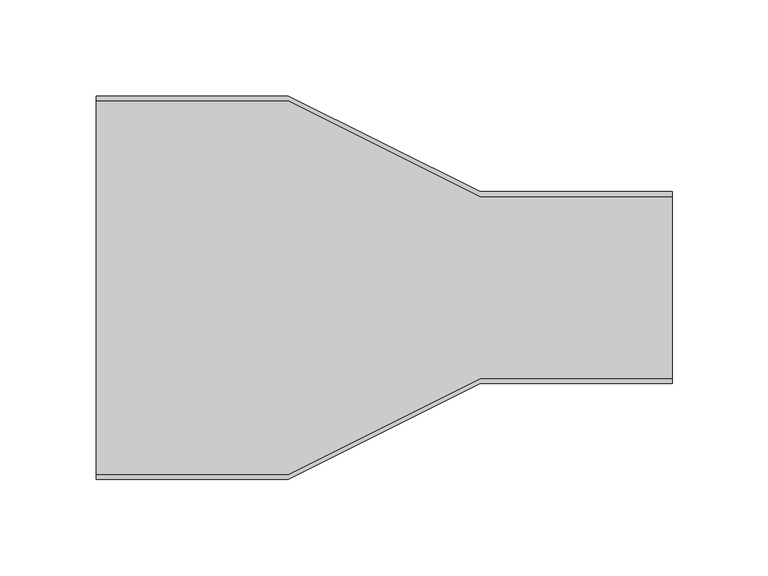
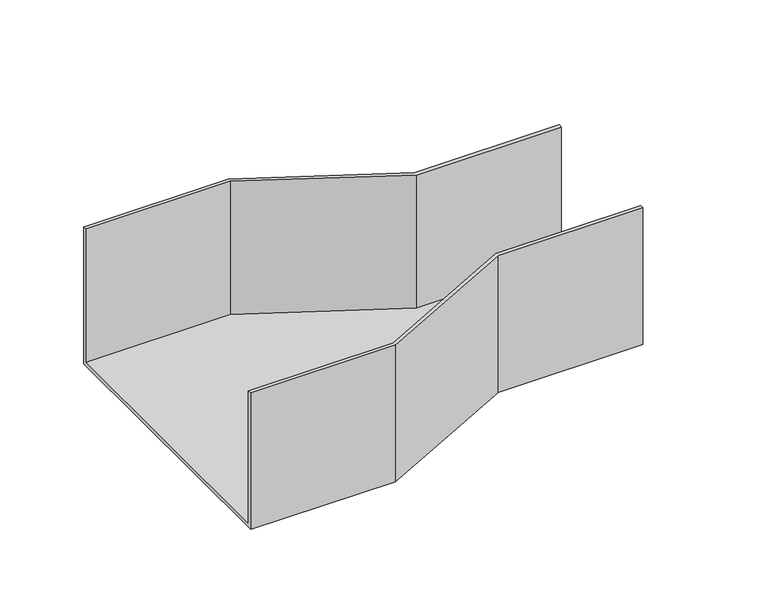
"""IFC4 building model written with IfcOpenShell, lengths in millimetres: cable carrier fitting geometry, BAKS_Reduction-symmetrical_RKZ : RKZCH100."""

import ifcopenshell
import ifcopenshell.guid

model = None  # the IFC model being written
_history = None  # IfcOwnerHistory: only IFC2X3 demands one
_inside = {}  # id of a spatial element -> (the spatial element, [elements in it])
_under = {}  # id of a project, library or spatial element -> (it, [spatial elements below it])
_declared = {}  # id of a project -> (the project, [libraries it declares])
_typed = {}  # id of a type object -> (the type object, [elements of that type])
_made_of = {}  # id of a material, layer set ... -> (it, [elements and type objects made of it])


def new_model(schema):
    """Start an empty IFC model of exactly this schema.

    Asked for "IFC4X3", IfcOpenShell would pick the latest addendum, in which some entities
    have other attributes; the version numbers below select the first issue.
    IFC2X3 requires an IfcOwnerHistory on every rooted entity: one is made here for all.
    """
    global model, _history
    if schema == "IFC4X3":
        model = ifcopenshell.file(schema_version=(4, 3, 0, 0))
    else:
        model = ifcopenshell.file(schema=schema)
    _inside.clear()
    _under.clear()
    _declared.clear()
    _typed.clear()
    _made_of.clear()
    _history = None
    if model.schema == "IFC2X3":
        org = make("IfcOrganization", Name="unknown")
        user = make(
            "IfcPersonAndOrganization",
            ThePerson=make("IfcPerson", FamilyName="unknown"),
            TheOrganization=org,
        )
        app = make(
            "IfcApplication",
            ApplicationDeveloper=org,
            Version="unknown",
            ApplicationFullName="unknown",
            ApplicationIdentifier="unknown",
        )
        _history = make(
            "IfcOwnerHistory",
            OwningUser=user,
            OwningApplication=app,
            ChangeAction="ADDED",
            CreationDate=0,
        )
    return model


def make(cls, **values):
    """One entity of the class cls with the attributes given. An attribute that is None is left unset."""
    return model.create_entity(
        cls, **{name: value for name, value in values.items() if value is not None}
    )


def rooted(cls, **values):
    """An entity with a GlobalId (a new one), such as an element, a storey or a relation."""
    return make(cls, GlobalId=ifcopenshell.guid.new(), OwnerHistory=_history, **values)


def si_unit(unit_type, name, prefix=None):
    """IfcSIUnit, for example si_unit("LENGTHUNIT", "METRE", prefix="MILLI")."""
    return make("IfcSIUnit", UnitType=unit_type, Prefix=prefix, Name=name)


def assignment(units):
    """IfcUnitAssignment: the units of a project."""
    return None if units is None else make("IfcUnitAssignment", Units=units)


def point(xyz):
    """IfcCartesianPoint."""
    return None if xyz is None else make("IfcCartesianPoint", Coordinates=xyz)


def direction(xyz):
    """IfcDirection."""
    return None if xyz is None else make("IfcDirection", DirectionRatios=xyz)


def frame(location, z_axis=None, x_axis=None):
    """IfcAxis2Placement3D, a coordinate frame: its origin and axes. An axis left out is left unset."""
    return make(
        "IfcAxis2Placement3D",
        Location=point(location),
        Axis=direction(z_axis),
        RefDirection=direction(x_axis),
    )


def origin():
    """The frame at (0, 0, 0) with its axes left unset."""
    return frame((0.0, 0.0, 0.0))


def place(relative_to, where):
    """IfcLocalPlacement: puts the frame where relative to a parent placement (None: the world)."""
    return make(
        "IfcLocalPlacement", PlacementRelTo=relative_to, RelativePlacement=where
    )


def context(
    kind, dimensions, precision=None, world=None, true_north=None, identifier=None
):
    """IfcGeometricRepresentationContext, for example the 3D "Model" context."""
    return make(
        "IfcGeometricRepresentationContext",
        ContextIdentifier=identifier,
        ContextType=kind,
        CoordinateSpaceDimension=dimensions,
        Precision=precision,
        WorldCoordinateSystem=world,
        TrueNorth=true_north,
    )


def project(units=None, contexts=None):
    """IfcProject with its units and contexts."""
    return rooted(
        "IfcProject",
        Name="project",
        RepresentationContexts=contexts,
        UnitsInContext=assignment(units),
    )


def spatial(cls, under=None, at=None, **own):
    """A site, building, storey or space (cls), placed at a placement, below another one or the project."""
    s = rooted(cls, ObjectPlacement=at, **own)
    if under is not None:
        _under.setdefault(under.id(), (under, []))[1].append(s)
    return s


def faces_of(points, faces, orient=None, outer=None):
    """IfcFace entities. A face is a list of loops; a loop is a list of indices into points, from 0.

    orient and outer hold one flag for each loop. By default every Orientation is true, the
    first loop of a face is its IfcFaceOuterBound and the others are IfcFaceBound.
    """
    made = []
    for i, loops in enumerate(faces):
        bounds = []
        for j, loop in enumerate(loops):
            is_outer = j == 0 if outer is None else outer[i][j]
            bounds.append(
                make(
                    "IfcFaceOuterBound" if is_outer else "IfcFaceBound",
                    Bound=make("IfcPolyLoop", Polygon=[points[k] for k in loop]),
                    Orientation=True if orient is None else orient[i][j],
                )
            )
        made.append(make("IfcFace", Bounds=bounds))
    return made


def faceted_brep(points, faces, orient=None, outer=None, voids=None):
    """IfcFacetedBrep: a solid bounded by flat faces; with voids (closed shells), ...WithVoids."""
    shared = [point(p) for p in points]
    hull = make("IfcClosedShell", CfsFaces=faces_of(shared, faces, orient, outer))
    if voids is None:
        return make("IfcFacetedBrep", Outer=hull)
    return make(
        "IfcFacetedBrepWithVoids",
        Outer=hull,
        Voids=[
            make(cls, CfsFaces=faces_of(shared, fs, o, b)) for cls, fs, o, b in voids
        ],
    )


def shape(context_of_items, identifier, shape_type, items):
    """IfcShapeRepresentation: the items that make up one representation, for example the "Body"."""
    return make(
        "IfcShapeRepresentation",
        ContextOfItems=context_of_items,
        RepresentationIdentifier=identifier,
        RepresentationType=shape_type,
        Items=items,
    )


def source(mapping_origin, context_of_items, identifier, shape_type, items):
    """IfcRepresentationMap: a shape defined once, which mapped items show again and again."""
    return make(
        "IfcRepresentationMap",
        MappingOrigin=mapping_origin,
        MappedRepresentation=shape(context_of_items, identifier, shape_type, items),
    )


def transform(
    local_origin,
    x_axis=None,
    y_axis=None,
    z_axis=None,
    scale=None,
    scale2=None,
    scale3=None,
    uniform=True,
):
    """IfcCartesianTransformationOperator3D, or its non-uniform kind. x_axis, y_axis, z_axis: its Axis1, 2, 3."""
    if uniform:
        return make(
            "IfcCartesianTransformationOperator3D",
            Axis1=direction(x_axis),
            Axis2=direction(y_axis),
            LocalOrigin=point(local_origin),
            Scale=scale,
            Axis3=direction(z_axis),
        )
    return make(
        "IfcCartesianTransformationOperator3DnonUniform",
        Axis1=direction(x_axis),
        Axis2=direction(y_axis),
        LocalOrigin=point(local_origin),
        Scale=scale,
        Axis3=direction(z_axis),
        Scale2=scale2,
        Scale3=scale3,
    )


def mapped(mapping_source, mapping_target):
    """IfcMappedItem: shows the shape of a source again, moved by a transform."""
    return make(
        "IfcMappedItem", MappingSource=mapping_source, MappingTarget=mapping_target
    )


def made_of(thing, what):
    """Note that an element or type object is made of a material, layer set ...; save() writes the relation."""
    if what is not None:
        _made_of.setdefault(what.id(), (what, []))[1].append(thing)
    return thing


def element(
    cls,
    number,
    at=None,
    inside=None,
    cuts=None,
    type_object=None,
    material=None,
    context=None,
    identifier="Body",
    shape_type=None,
    held_by="IfcProductDefinitionShape",
    body=None,
    shapes=None,
    **own,
):
    """One element of the class cls, such as IfcWall. Its Tag is "e" and its number.

    at: its placement. inside: the storey or other place that contains it. cuts: it is an
    opening in that element (IfcRelVoidsElement). A single representation is given by context,
    identifier, shape_type and body (its items); several are given by shapes. held_by: the class
    of the entity that holds the representations. save() writes the other relations.
    """
    e = rooted(cls, Tag="e%d" % number, ObjectPlacement=at, **own)
    if body is not None:
        shapes = [shape(context, identifier, shape_type, body)]
    if shapes is not None:
        e.Representation = make(held_by, Representations=shapes)
    if inside is not None:
        _inside.setdefault(inside.id(), (inside, []))[1].append(e)
    if cuts is not None:
        rooted(
            "IfcRelVoidsElement", RelatingBuildingElement=cuts, RelatedOpeningElement=e
        )
    if type_object is not None:
        _typed.setdefault(type_object.id(), (type_object, []))[1].append(e)
    return made_of(e, material)


def aggregate(whole, parts):
    """IfcRelAggregates: a whole, such as a stair, and the parts it consists of."""
    return rooted("IfcRelAggregates", RelatingObject=whole, RelatedObjects=parts)


def save(model, path):
    """Write the relations noted so far, then the file.

    IfcRelAggregates (storeys below a building ...), IfcRelContainedInSpatialStructure (elements
    in a storey), IfcRelDefinesByType, IfcRelAssociatesMaterial and IfcRelDeclares: one each for
    every whole, place, type object, material and project.
    """
    for whole, parts in _under.values():
        aggregate(whole, parts)
    for where, things in _inside.values():
        rooted(
            "IfcRelContainedInSpatialStructure",
            RelatedElements=things,
            RelatingStructure=where,
        )
    for kind, things in _typed.values():
        rooted("IfcRelDefinesByType", RelatedObjects=things, RelatingType=kind)
    for what, things in _made_of.values():
        rooted("IfcRelAssociatesMaterial", RelatedObjects=things, RelatingMaterial=what)
    for by, libraries in _declared.values():
        rooted("IfcRelDeclares", RelatingContext=by, RelatedDefinitions=libraries)
    model.write(path)


def cable_carrier_fitting_43fa0a0a(model_context):
    return source(origin(), model_context, "Body", "Brep", [
        faceted_brep([(0.0, -100.0, -50.0), (0.0, -100.0, 50.0), (0.0, -97.46, 50.0), (0.0, -97.46, -47.46), (0.0, 97.46, -47.46), (0.0, 97.46, 50.0), (0.0, 100.0, 50.0), (0.0, 100.0, -50.0), (300.0, -50.0, -50.0), (300.0, 50.0, -50.0), (300.0, 50.0, 50.0), (300.0, 47.46, 50.0), (300.0, 47.46, -47.46), (300.0, -47.46, -47.46), (300.0, -47.46, 50.0), (300.0, -50.0, 50.0), (100.0, -100.0, -50.0), (100.0, -100.0, 50.0), (200.0, -50.0, 50.0), (200.0, -47.46, 50.0), (100.0, -97.46, 50.0), (100.0, -97.46, -47.46), (200.0, -47.46, -47.46), (200.0, 47.46, -47.46), (100.0, 97.46, -47.46), (100.0, 97.46, 50.0), (200.0, 47.46, 50.0), (200.0, 50.0, 50.0), (100.0, 100.0, 50.0), (100.0, 100.0, -50.0), (200.0, 50.0, -50.0), (200.0, -50.0, -50.0)], [[[0, 1, 2, 3, 4, 5, 6, 7]], [[8, 9, 10, 11, 12, 13, 14, 15]], [[1, 0, 16, 17]], [[2, 1, 17, 18, 15, 14, 19, 20]], [[3, 2, 20, 21]], [[4, 3, 21, 22, 13, 12, 23, 24]], [[5, 4, 24, 25]], [[6, 5, 25, 26, 11, 10, 27, 28]], [[7, 6, 28, 29]], [[0, 7, 29, 30, 9, 8, 31, 16]], [[8, 15, 18, 31]], [[14, 13, 22, 19]], [[12, 11, 26, 23]], [[10, 9, 30, 27]], [[30, 29, 28, 27]], [[26, 25, 24, 23]], [[22, 21, 20, 19]], [[16, 31, 18, 17]]]),
    ])


if __name__ == "__main__":
    model = new_model("IFC4")
    model_context = context("Model", 3, world=origin())
    ifc_project = project(units=[si_unit("LENGTHUNIT", "METRE", prefix="MILLI")], contexts=[model_context])
    site = spatial("IfcSite", under=ifc_project)
    building = spatial("IfcBuilding", under=site)
    placement = place(None, origin())
    cable_carrier_fitting_shape = cable_carrier_fitting_43fa0a0a(model_context)
    element("IfcCableCarrierFitting", 1, ObjectType="BAKS_Reduction-symmetrical_RKZ : RKZCH100", at=placement, inside=building, context=model_context, shape_type="MappedRepresentation", body=[
        mapped(cable_carrier_fitting_shape, transform((0.0, 0.0, 0.0), x_axis=(1.0, 0.0, 0.0), y_axis=(0.0, 1.0, 0.0), z_axis=(0.0, 0.0, 1.0))),
    ])
    save(model, "model.ifc")
